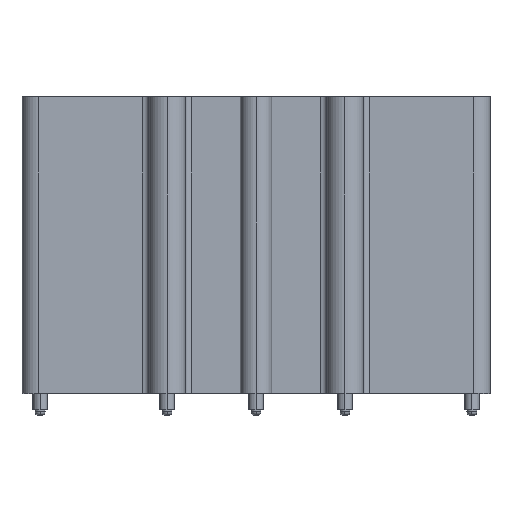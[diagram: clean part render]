
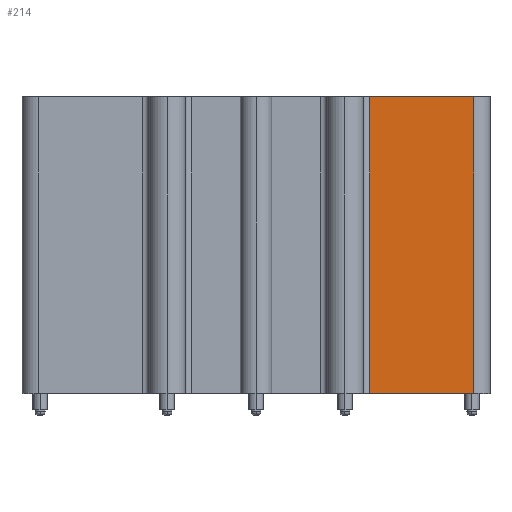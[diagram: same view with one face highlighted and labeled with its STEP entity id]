
A CAD part, top view. The second image highlights one B-rep face of the part: STEP entity #214.
In plain terms, the highlighted planar face has unit normal (0, 0, 1).
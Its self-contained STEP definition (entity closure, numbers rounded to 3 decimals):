
#33 = EDGE_LOOP ( 'NONE', ( #2086, #2085, #2087, #2084 ) ) ;
#61 = FACE_OUTER_BOUND ( 'NONE', #33, .T. ) ;
#64 = AXIS2_PLACEMENT_3D ( 'NONE', #2495, #2496, #2497 ) ;
#214 = ADVANCED_FACE ( 'NONE', ( #61 ), #2494, .F. ) ;
#356 = VECTOR ( 'NONE', #1328, 1000. ) ;
#392 = VECTOR ( 'NONE', #1442, 1000. ) ;
#734 = CARTESIAN_POINT ( 'NONE',  ( 33., 0., 3.75 ) ) ;
#735 = CARTESIAN_POINT ( 'NONE',  ( 17.25, 0., 3.75 ) ) ;
#763 = CARTESIAN_POINT ( 'NONE',  ( 17.25, -45., 3.75 ) ) ;
#764 = CARTESIAN_POINT ( 'NONE',  ( 33., -45., 3.75 ) ) ;
#908 = LINE ( 'NONE', #909, #2880 ) ;
#909 = CARTESIAN_POINT ( 'NONE',  ( 17.25, -45., 3.75 ) ) ;
#910 = DIRECTION ( 'NONE',  ( 0., -1., 0. ) ) ;
#918 = LINE ( 'NONE', #919, #2883 ) ;
#919 = CARTESIAN_POINT ( 'NONE',  ( 33., 0., 3.75 ) ) ;
#920 = DIRECTION ( 'NONE',  ( 0., 1., 0. ) ) ;
#1326 = LINE ( 'NONE', #1327, #356 ) ;
#1327 = CARTESIAN_POINT ( 'NONE',  ( 35.5, -45., 3.75 ) ) ;
#1328 = DIRECTION ( 'NONE',  ( -1., 0., 0. ) ) ;
#1440 = LINE ( 'NONE', #1441, #392 ) ;
#1441 = CARTESIAN_POINT ( 'NONE',  ( 35.5, 0., 3.75 ) ) ;
#1442 = DIRECTION ( 'NONE',  ( -1., 0., 0. ) ) ;
#1650 = VERTEX_POINT ( 'NONE', #734 ) ;
#1651 = VERTEX_POINT ( 'NONE', #735 ) ;
#1679 = VERTEX_POINT ( 'NONE', #763 ) ;
#1680 = VERTEX_POINT ( 'NONE', #764 ) ;
#2084 = ORIENTED_EDGE ( 'NONE', *, *, #3055, .T. ) ;
#2085 = ORIENTED_EDGE ( 'NONE', *, *, #3052, .T. ) ;
#2086 = ORIENTED_EDGE ( 'NONE', *, *, #3396, .T. ) ;
#2087 = ORIENTED_EDGE ( 'NONE', *, *, #3358, .F. ) ;
#2494 = PLANE ( 'NONE',  #64 ) ;
#2495 = CARTESIAN_POINT ( 'NONE',  ( 35.5, -45., 3.75 ) ) ;
#2496 = DIRECTION ( 'NONE',  ( 0., 0., -1. ) ) ;
#2497 = DIRECTION ( 'NONE',  ( -1., 0., 0. ) ) ;
#2880 = VECTOR ( 'NONE', #910, 1000. ) ;
#2883 = VECTOR ( 'NONE', #920, 1000. ) ;
#3052 = EDGE_CURVE ( 'NONE', #1651, #1679, #908, .T. ) ;
#3055 = EDGE_CURVE ( 'NONE', #1680, #1650, #918, .T. ) ;
#3358 = EDGE_CURVE ( 'NONE', #1680, #1679, #1326, .T. ) ;
#3396 = EDGE_CURVE ( 'NONE', #1650, #1651, #1440, .T. ) ;
